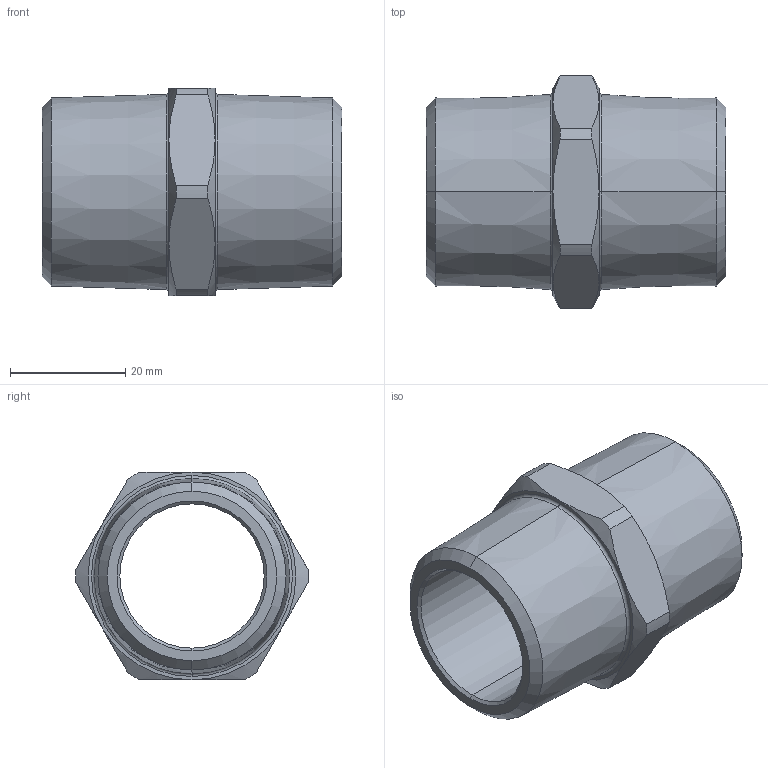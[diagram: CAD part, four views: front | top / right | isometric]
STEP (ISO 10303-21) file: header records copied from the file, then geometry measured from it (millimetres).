
FILE_DESCRIPTION (( 'STEP AP203' ), '1' );
FILE_NAME ('ﾍﾂﾍ3Nﾍ.STEP', '2019-06-05T12:27:28', ( '' ), ( '' ), 'SwSTEP 2.0', 'SolidWorks 2012', '' );
FILE_SCHEMA (( 'CONFIG_CONTROL_DESIGN' ));
Length unit declared in the file: millimetre
Products named in the file (1): ﾍﾂﾍ3Nﾍ
Bounding box: 52 x 40.29 x 36 mm (x, y, z)
Volume: 20626.6 mm3; surface area: 10680.8 mm2
Topology: 1 solids, 1 shells, 52 faces, 114 edges, 68 vertices
Faces by surface type: cone 24, cylinder 12, plane 12, torus 4
Entity records: 1611 total; most frequent: CARTESIAN_POINT 387, DIRECTION 256, ORIENTED_EDGE 228, EDGE_CURVE 114, AXIS2_PLACEMENT_3D 113, VERTEX_POINT 68, CIRCLE 60, EDGE_LOOP 58
